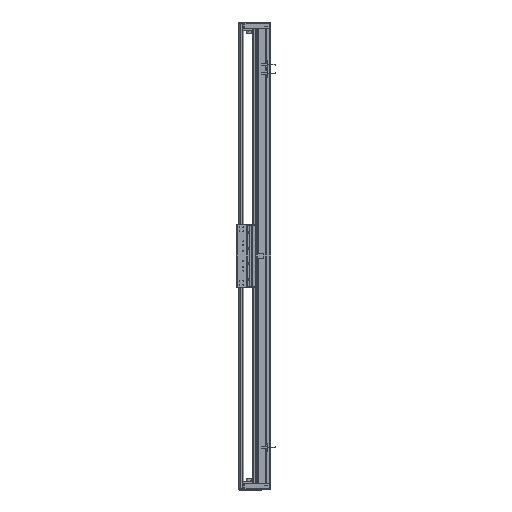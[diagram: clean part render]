
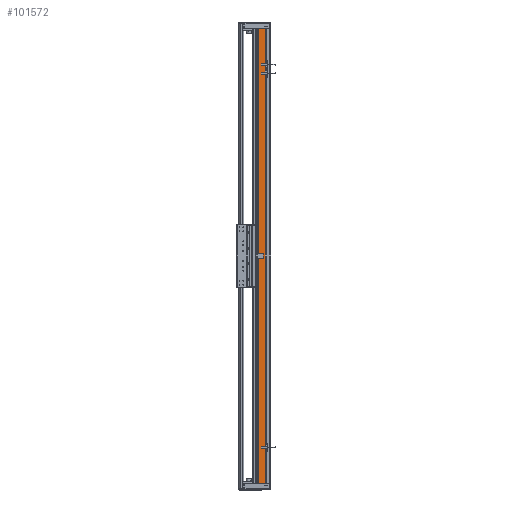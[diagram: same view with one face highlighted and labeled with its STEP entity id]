
A CAD part, left-side view. The second image highlights one B-rep face of the part: STEP entity #101572.
In plain terms, the highlighted planar face has unit normal (-1, 0, 0).
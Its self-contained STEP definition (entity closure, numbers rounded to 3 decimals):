
#6649 = ORIENTED_EDGE ( 'NONE', *, *, #6914, .T. ) ;
#6914 = EDGE_CURVE ( 'NONE', #150521, #101045, #132454, .T. ) ;
#8897 = ORIENTED_EDGE ( 'NONE', *, *, #50894, .F. ) ;
#13678 = LINE ( 'NONE', #49565, #110359 ) ;
#16680 = DIRECTION ( 'NONE',  ( 0., 0., -1. ) ) ;
#17887 = CARTESIAN_POINT ( 'NONE',  ( -97.5, 36.95, 690. ) ) ;
#20219 = DIRECTION ( 'NONE',  ( 0., 0., -1. ) ) ;
#20746 = CARTESIAN_POINT ( 'NONE',  ( -97.5, 36.95, 690. ) ) ;
#27836 = LINE ( 'NONE', #17887, #73726 ) ;
#29634 = VERTEX_POINT ( 'NONE', #106435 ) ;
#44634 = LINE ( 'NONE', #104280, #48635 ) ;
#48635 = VECTOR ( 'NONE', #20219, 1000. ) ;
#49565 = CARTESIAN_POINT ( 'NONE',  ( -97.5, 36.95, 690. ) ) ;
#50894 = EDGE_CURVE ( 'NONE', #90635, #101045, #44634, .T. ) ;
#57599 = CARTESIAN_POINT ( 'NONE',  ( -97.5, 14.45, 690. ) ) ;
#64522 = DIRECTION ( 'NONE',  ( 0., -1., 0. ) ) ;
#73726 = VECTOR ( 'NONE', #64522, 1000. ) ;
#81166 = PLANE ( 'NONE',  #84885 ) ;
#84885 = AXIS2_PLACEMENT_3D ( 'NONE', #20746, #128563, #150014 ) ;
#90635 = VERTEX_POINT ( 'NONE', #57599 ) ;
#92656 = EDGE_CURVE ( 'NONE', #29634, #150521, #13678, .T. ) ;
#98019 = CARTESIAN_POINT ( 'NONE',  ( -97.5, 36.95, -690. ) ) ;
#101045 = VERTEX_POINT ( 'NONE', #115942 ) ;
#101572 = ADVANCED_FACE ( 'NONE', ( #147004 ), #81166, .F. ) ;
#102782 = ORIENTED_EDGE ( 'NONE', *, *, #141458, .F. ) ;
#104280 = CARTESIAN_POINT ( 'NONE',  ( -97.5, 14.45, 690. ) ) ;
#106435 = CARTESIAN_POINT ( 'NONE',  ( -97.5, 36.95, 690. ) ) ;
#108459 = ORIENTED_EDGE ( 'NONE', *, *, #92656, .T. ) ;
#110243 = DIRECTION ( 'NONE',  ( 0., -1., 0. ) ) ;
#110359 = VECTOR ( 'NONE', #16680, 1000. ) ;
#115942 = CARTESIAN_POINT ( 'NONE',  ( -97.5, 14.45, -690. ) ) ;
#119625 = CARTESIAN_POINT ( 'NONE',  ( -97.5, 36.95, -690. ) ) ;
#128563 = DIRECTION ( 'NONE',  ( 1., 0., 0. ) ) ;
#132454 = LINE ( 'NONE', #98019, #135167 ) ;
#135167 = VECTOR ( 'NONE', #110243, 1000. ) ;
#138609 = EDGE_LOOP ( 'NONE', ( #6649, #8897, #102782, #108459 ) ) ;
#141458 = EDGE_CURVE ( 'NONE', #29634, #90635, #27836, .T. ) ;
#147004 = FACE_OUTER_BOUND ( 'NONE', #138609, .T. ) ;
#150014 = DIRECTION ( 'NONE',  ( 0., 1., 0. ) ) ;
#150521 = VERTEX_POINT ( 'NONE', #119625 ) ;
